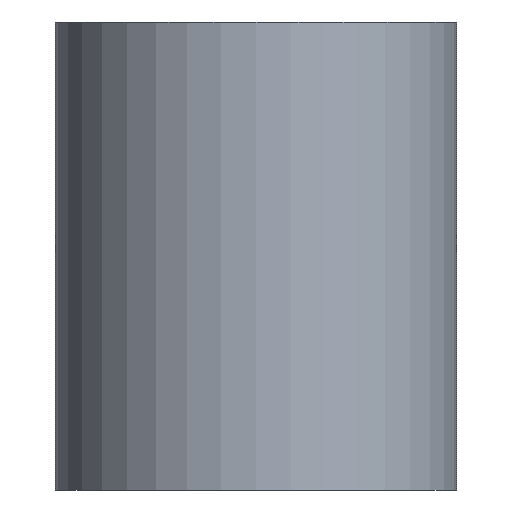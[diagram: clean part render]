
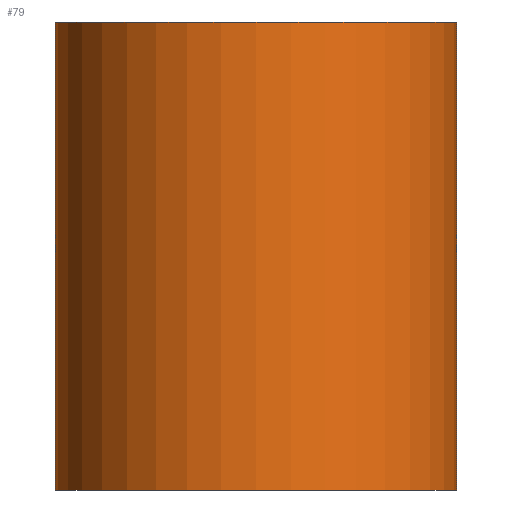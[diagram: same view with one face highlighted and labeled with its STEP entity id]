
A CAD part, front view. The second image highlights one B-rep face of the part: STEP entity #79.
In plain terms, the highlighted cylindrical face has radius 3 mm (diameter 6 mm), a full revolution.
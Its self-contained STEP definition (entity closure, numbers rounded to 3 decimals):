
#18=CYLINDRICAL_SURFACE('',#98,3.);
#23=FACE_BOUND('',#40,.T.);
#29=FACE_OUTER_BOUND('',#39,.T.);
#39=EDGE_LOOP('',(#69));
#40=EDGE_LOOP('',(#70));
#46=CIRCLE('',#95,3.);
#48=CIRCLE('',#99,3.);
#52=VERTEX_POINT('',#137);
#54=VERTEX_POINT('',#143);
#58=EDGE_CURVE('',#52,#52,#46,.T.);
#60=EDGE_CURVE('',#54,#54,#48,.T.);
#69=ORIENTED_EDGE('',*,*,#60,.F.);
#70=ORIENTED_EDGE('',*,*,#58,.F.);
#79=ADVANCED_FACE('',(#29,#23),#18,.T.);
#95=AXIS2_PLACEMENT_3D('',#138,#115,#116);
#98=AXIS2_PLACEMENT_3D('',#142,#121,#122);
#99=AXIS2_PLACEMENT_3D('',#144,#123,#124);
#115=DIRECTION('center_axis',(0.,0.,-1.));
#116=DIRECTION('ref_axis',(-1.,0.,0.));
#121=DIRECTION('center_axis',(0.,0.,1.));
#122=DIRECTION('ref_axis',(-1.,0.,0.));
#123=DIRECTION('center_axis',(0.,0.,1.));
#124=DIRECTION('ref_axis',(-1.,0.,0.));
#137=CARTESIAN_POINT('',(3.,0.,0.));
#138=CARTESIAN_POINT('Origin',(0.,0.,0.));
#142=CARTESIAN_POINT('Origin',(0.,0.,0.));
#143=CARTESIAN_POINT('',(3.,0.,7.));
#144=CARTESIAN_POINT('Origin',(0.,0.,7.));
